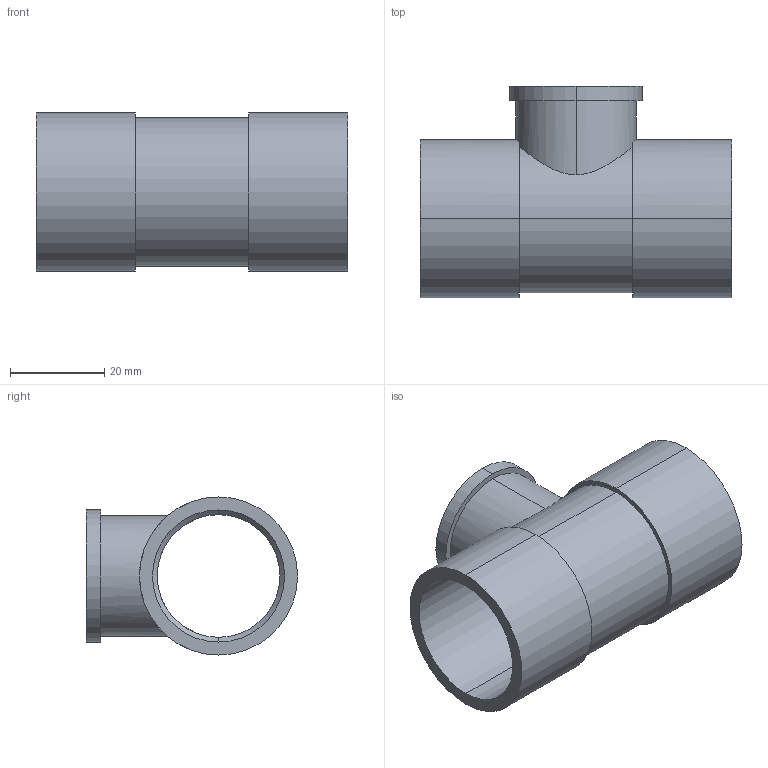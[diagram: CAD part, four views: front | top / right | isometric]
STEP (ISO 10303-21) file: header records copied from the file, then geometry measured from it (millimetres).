
FILE_DESCRIPTION (( 'STEP AP203' ), '1' );
FILE_NAME ('28x12.STEP', '2014-08-27T00:20:22', ( 'Administrators' ), ( 'JUJUMAO' ), 'SwSTEP 2.0', 'SolidWorks 2008', '' );
FILE_SCHEMA (( 'CONFIG_CONTROL_DESIGN' ));
Length unit declared in the file: millimetre
Products named in the file (1): 28x12
Bounding box: 66 x 44.75 x 33.5 mm (x, y, z)
Volume: 19398.3 mm3; surface area: 15595.6 mm2
Topology: 1 solids, 1 shells, 51 faces, 132 edges, 85 vertices
Faces by surface type: cylinder 35, cone 7, plane 7, bspline 2
Entity records: 2756 total; most frequent: CARTESIAN_POINT 1515, ORIENTED_EDGE 264, DIRECTION 228, EDGE_CURVE 132, AXIS2_PLACEMENT_3D 92, VERTEX_POINT 85, EDGE_LOOP 57, ADVANCED_FACE 51
